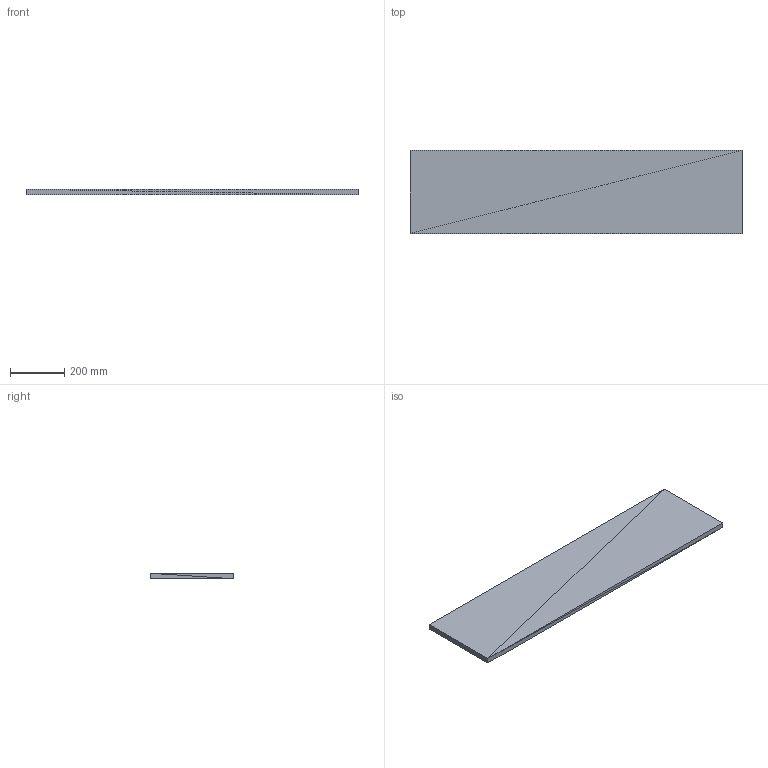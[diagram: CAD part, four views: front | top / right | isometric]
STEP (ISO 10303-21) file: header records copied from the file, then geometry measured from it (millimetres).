
FILE_DESCRIPTION(('ISINAC STEP AP214'),'2;1');
FILE_NAME('ISINAC_R.1220.305_20mm_ADHESIVO','2026-05-03T10:49:19',('ISINAC'),('www.isinac.com'),'ISINAC BIM Generator 1.0','','');
FILE_SCHEMA(('AUTOMOTIVE_DESIGN'));
Length unit declared in the file: millimetre
Products named in the file (1): ISINAC_R.1220.305_20mm_ADHESIVO
Bounding box: 1220 x 305 x 20 mm (x, y, z)
Surface area: 805200 mm2 (no closed solid volume)
Topology: 0 solids, 12 shells, 12 faces, 36 edges, 36 vertices
Faces by surface type: plane 12
Entity records: 145 total; most frequent: CARTESIAN_POINT 48, DIRECTION 24, POLY_LOOP 12, FACE_OUTER_BOUND 12, AXIS2_PLACEMENT_3D 12, PLANE 12, FACE_SURFACE 12, CLOSED_SHELL 1
